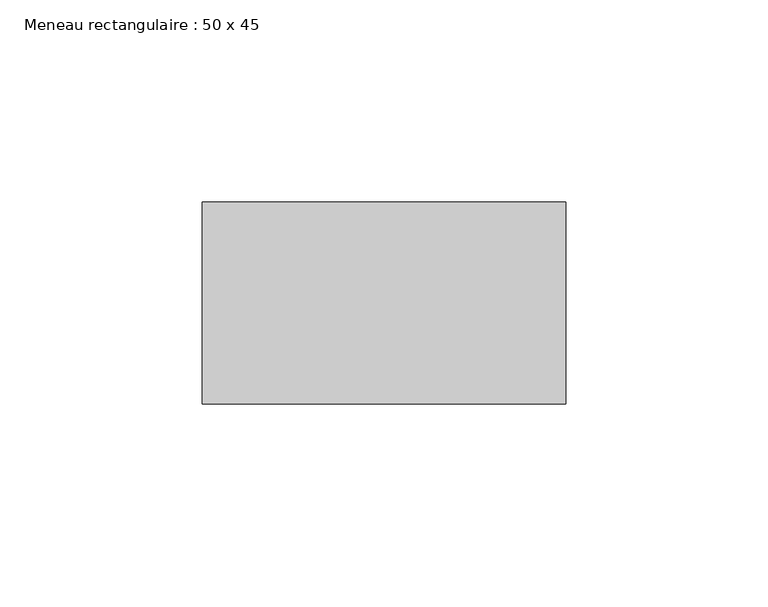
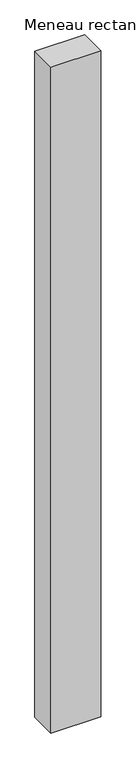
"""IFC4 building model written with IfcOpenShell, lengths in millimetres: member geometry, Meneau rectangulaire : 50 x 45."""

from ifc_helpers import new_model, si_unit, frame, origin, place, context, project, spatial, polyline, outline, extrude, source, transform, mapped, element, save


def meneau_rectangulaire_50_x_45_ab7b3e4f(model_context):
    return source(origin(), model_context, "Body", "SweptSolid", [
        extrude(outline(polyline([(0.0, 0.0), (0.0, -50.0), (-90.0, -50.0), (-90.0, 0.0), (0.0, 0.0)])), frame((0.0, 0.0, -1269.2562307), z_axis=(0.0, 0.0, 1.0), x_axis=(1.0, 0.0, 0.0)), (0.0, 0.0, 1.0), 1269.2562307),
    ])


if __name__ == "__main__":
    model = new_model("IFC4")
    model_context = context("Model", 3, world=origin())
    ifc_project = project(units=[si_unit("LENGTHUNIT", "METRE", prefix="MILLI")], contexts=[model_context])
    site = spatial("IfcSite", under=ifc_project)
    building = spatial("IfcBuilding", under=site)
    placement = place(None, origin())
    meneau_rectangulaire_50_x_45_shape = meneau_rectangulaire_50_x_45_ab7b3e4f(model_context)
    element("IfcMember", 1, ObjectType="Meneau rectangulaire : 50 x 45", at=placement, inside=building, context=model_context, shape_type="MappedRepresentation", body=[
        mapped(meneau_rectangulaire_50_x_45_shape, transform((0.0, 0.0, 0.0), x_axis=(1.0, 0.0, 0.0), y_axis=(0.0, 1.0, 0.0), z_axis=(0.0, 0.0, 1.0))),
    ])
    save(model, "model.ifc")
